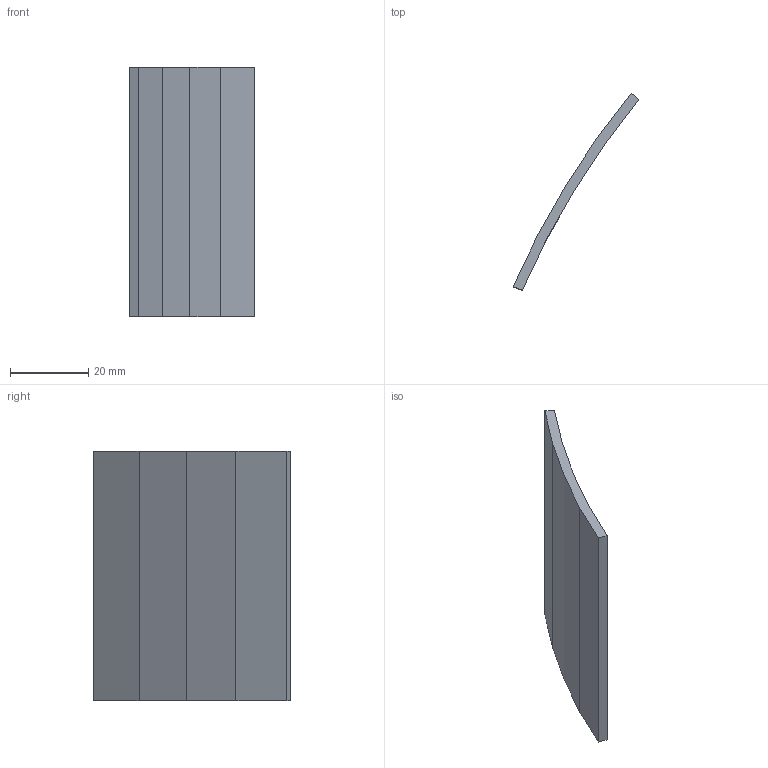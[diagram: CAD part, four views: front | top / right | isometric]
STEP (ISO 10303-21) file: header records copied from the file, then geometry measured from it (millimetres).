
FILE_DESCRIPTION(('Open CASCADE Model'),'2;1');
FILE_NAME('Open CASCADE Shape Model','2026-09-19T23:46:39',('Author'),( 'Open CASCADE'),'Open CASCADE STEP processor 7.9','Open CASCADE 7.9' ,'Unknown');
FILE_SCHEMA(('AUTOMOTIVE_DESIGN { 1 0 10303 214 1 1 1 1 }'));
Length unit declared in the file: millimetre
Products named in the file (1): Open CASCADE STEP translator 7.9 28
Bounding box: 32.21 x 50.47 x 64 mm (x, y, z)
Volume: 9247.2 mm3; surface area: 8014.7 mm2
Topology: 1 solids, 1 shells, 12 faces, 30 edges, 20 vertices
Faces by surface type: plane 12
Entity records: 724 total; most frequent: CARTESIAN_POINT 153, DIRECTION 86, ORIENTED_EDGE 60, LINE 60, VECTOR 60, PCURVE 60, DEFINITIONAL_REPRESENTATION 60, EDGE_CURVE 30
